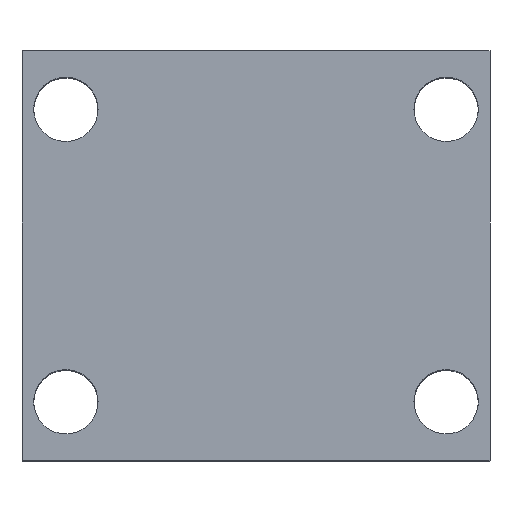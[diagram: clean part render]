
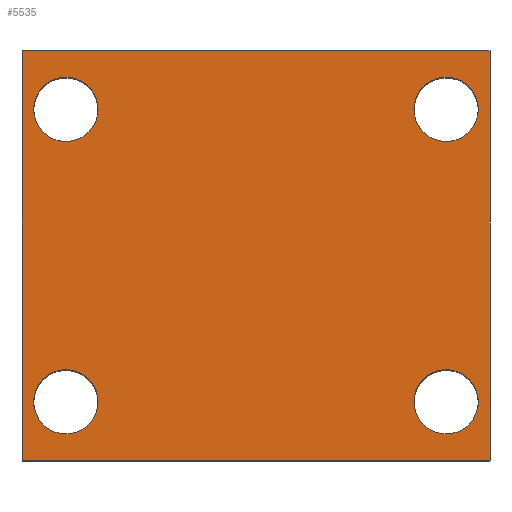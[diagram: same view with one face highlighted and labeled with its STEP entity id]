
A CAD part, top view. The second image highlights one B-rep face of the part: STEP entity #5535.
In plain terms, the highlighted planar face has unit normal (0, 0, 1).
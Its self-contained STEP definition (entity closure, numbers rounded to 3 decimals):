
#42 = ORIENTED_EDGE ( 'NONE', *, *, #14984, .F. ) ;
#81 = ORIENTED_EDGE ( 'NONE', *, *, #12268, .T. ) ;
#680 = VERTEX_POINT ( 'NONE', #2976 ) ;
#1049 = EDGE_CURVE ( 'NONE', #680, #11699, #5233, .T. ) ;
#1264 = DIRECTION ( 'NONE',  ( 0., 0., -1. ) ) ;
#1292 = LINE ( 'NONE', #4567, #7881 ) ;
#1431 = PLANE ( 'NONE',  #15276 ) ;
#1752 = VERTEX_POINT ( 'NONE', #15439 ) ;
#1864 = VECTOR ( 'NONE', #13618, 1000. ) ;
#1929 = VERTEX_POINT ( 'NONE', #6862 ) ;
#1977 = DIRECTION ( 'NONE',  ( 0., 0., -1. ) ) ;
#2233 = AXIS2_PLACEMENT_3D ( 'NONE', #9193, #1264, #10565 ) ;
#2290 = DIRECTION ( 'NONE',  ( 1., 0., 0. ) ) ;
#2409 = ORIENTED_EDGE ( 'NONE', *, *, #11989, .T. ) ;
#2499 = CARTESIAN_POINT ( 'NONE',  ( 76., 20., 90. ) ) ;
#2744 = DIRECTION ( 'NONE',  ( -1., 0., 0. ) ) ;
#2948 = CARTESIAN_POINT ( 'NONE',  ( 65., 20., 90. ) ) ;
#2955 = EDGE_CURVE ( 'NONE', #16971, #10944, #14326, .T. ) ;
#2976 = CARTESIAN_POINT ( 'NONE',  ( 54., 120., 90. ) ) ;
#3037 = AXIS2_PLACEMENT_3D ( 'NONE', #15864, #7674, #17254 ) ;
#3060 = EDGE_LOOP ( 'NONE', ( #2409, #42, #6910, #6739 ) ) ;
#3081 = CARTESIAN_POINT ( 'NONE',  ( 65., 120., 90. ) ) ;
#3160 = EDGE_CURVE ( 'NONE', #10944, #16971, #15414, .T. ) ;
#3420 = FACE_BOUND ( 'NONE', #13565, .T. ) ;
#3484 = CARTESIAN_POINT ( 'NONE',  ( 65., 20., 90. ) ) ;
#3856 = CARTESIAN_POINT ( 'NONE',  ( -80., 0., 90. ) ) ;
#3908 = ORIENTED_EDGE ( 'NONE', *, *, #16884, .T. ) ;
#3959 = CARTESIAN_POINT ( 'NONE',  ( -54., 20., 90. ) ) ;
#4195 = CARTESIAN_POINT ( 'NONE',  ( 80., 140., 90. ) ) ;
#4250 = DIRECTION ( 'NONE',  ( -1., 0., 0. ) ) ;
#4338 = LINE ( 'NONE', #10195, #16657 ) ;
#4376 = DIRECTION ( 'NONE',  ( -1., 0., 0. ) ) ;
#4567 = CARTESIAN_POINT ( 'NONE',  ( -80., 140., 90. ) ) ;
#4599 = AXIS2_PLACEMENT_3D ( 'NONE', #3081, #12425, #4376 ) ;
#4757 = VERTEX_POINT ( 'NONE', #13604 ) ;
#4785 = DIRECTION ( 'NONE',  ( -1., 0., 0. ) ) ;
#4902 = LINE ( 'NONE', #4195, #1864 ) ;
#5233 = CIRCLE ( 'NONE', #4599, 11. ) ;
#5297 = ORIENTED_EDGE ( 'NONE', *, *, #7253, .T. ) ;
#5352 = ORIENTED_EDGE ( 'NONE', *, *, #3160, .T. ) ;
#5534 = LINE ( 'NONE', #5549, #12291 ) ;
#5535 = ADVANCED_FACE ( 'NONE', ( #13288, #9688, #10117, #3420, #16964 ), #1431, .F. ) ;
#5549 = CARTESIAN_POINT ( 'NONE',  ( -80., 140., 90. ) ) ;
#5586 = CARTESIAN_POINT ( 'NONE',  ( -65., 120., 90. ) ) ;
#5800 = DIRECTION ( 'NONE',  ( 0., 0., -1. ) ) ;
#6608 = CARTESIAN_POINT ( 'NONE',  ( 54., 20., 90. ) ) ;
#6739 = ORIENTED_EDGE ( 'NONE', *, *, #13476, .T. ) ;
#6775 = EDGE_LOOP ( 'NONE', ( #11037, #3908 ) ) ;
#6862 = CARTESIAN_POINT ( 'NONE',  ( 80., 0., 90. ) ) ;
#6892 = DIRECTION ( 'NONE',  ( 0., -1., 0. ) ) ;
#6910 = ORIENTED_EDGE ( 'NONE', *, *, #12572, .F. ) ;
#6932 = DIRECTION ( 'NONE',  ( -1., 0., 0. ) ) ;
#7001 = EDGE_LOOP ( 'NONE', ( #10483, #5352 ) ) ;
#7247 = CIRCLE ( 'NONE', #12297, 11. ) ;
#7253 = EDGE_CURVE ( 'NONE', #4757, #12274, #9655, .T. ) ;
#7648 = ORIENTED_EDGE ( 'NONE', *, *, #9863, .T. ) ;
#7674 = DIRECTION ( 'NONE',  ( 0., 0., -1. ) ) ;
#7881 = VECTOR ( 'NONE', #12695, 1000. ) ;
#8003 = AXIS2_PLACEMENT_3D ( 'NONE', #13942, #5800, #15341 ) ;
#8567 = CARTESIAN_POINT ( 'NONE',  ( -54., 120., 90. ) ) ;
#9193 = CARTESIAN_POINT ( 'NONE',  ( -65., 120., 90. ) ) ;
#9352 = EDGE_LOOP ( 'NONE', ( #5297, #7648 ) ) ;
#9473 = VERTEX_POINT ( 'NONE', #3856 ) ;
#9600 = CARTESIAN_POINT ( 'NONE',  ( 76., 120., 90. ) ) ;
#9655 = CIRCLE ( 'NONE', #2233, 11. ) ;
#9688 = FACE_BOUND ( 'NONE', #6775, .T. ) ;
#9863 = EDGE_CURVE ( 'NONE', #12274, #4757, #15387, .T. ) ;
#9942 = CARTESIAN_POINT ( 'NONE',  ( 65., 120., 90. ) ) ;
#9952 = CIRCLE ( 'NONE', #3037, 11. ) ;
#10117 = FACE_BOUND ( 'NONE', #7001, .T. ) ;
#10195 = CARTESIAN_POINT ( 'NONE',  ( -80., 0., 90. ) ) ;
#10483 = ORIENTED_EDGE ( 'NONE', *, *, #2955, .T. ) ;
#10565 = DIRECTION ( 'NONE',  ( -1., 0., 0. ) ) ;
#10730 = DIRECTION ( 'NONE',  ( 0., 0., -1. ) ) ;
#10944 = VERTEX_POINT ( 'NONE', #2499 ) ;
#11005 = VERTEX_POINT ( 'NONE', #3959 ) ;
#11037 = ORIENTED_EDGE ( 'NONE', *, *, #12943, .T. ) ;
#11286 = DIRECTION ( 'NONE',  ( -1., 0., 0. ) ) ;
#11699 = VERTEX_POINT ( 'NONE', #9600 ) ;
#11789 = CARTESIAN_POINT ( 'NONE',  ( -76., 20., 90. ) ) ;
#11989 = EDGE_CURVE ( 'NONE', #9473, #1929, #4338, .T. ) ;
#12268 = EDGE_CURVE ( 'NONE', #11699, #680, #7247, .T. ) ;
#12274 = VERTEX_POINT ( 'NONE', #8567 ) ;
#12290 = DIRECTION ( 'NONE',  ( 0., 0., -1. ) ) ;
#12291 = VECTOR ( 'NONE', #6892, 1000. ) ;
#12297 = AXIS2_PLACEMENT_3D ( 'NONE', #9942, #1977, #11286 ) ;
#12425 = DIRECTION ( 'NONE',  ( 0., 0., -1. ) ) ;
#12530 = CIRCLE ( 'NONE', #8003, 11. ) ;
#12572 = EDGE_CURVE ( 'NONE', #15631, #1752, #1292, .T. ) ;
#12695 = DIRECTION ( 'NONE',  ( 1., 0., 0. ) ) ;
#12755 = VERTEX_POINT ( 'NONE', #11789 ) ;
#12860 = DIRECTION ( 'NONE',  ( 0., 0., -1. ) ) ;
#12943 = EDGE_CURVE ( 'NONE', #12755, #11005, #12530, .T. ) ;
#13288 = FACE_BOUND ( 'NONE', #9352, .T. ) ;
#13396 = CARTESIAN_POINT ( 'NONE',  ( -80., 140., 90. ) ) ;
#13476 = EDGE_CURVE ( 'NONE', #15631, #9473, #5534, .T. ) ;
#13565 = EDGE_LOOP ( 'NONE', ( #16440, #81 ) ) ;
#13604 = CARTESIAN_POINT ( 'NONE',  ( -76., 120., 90. ) ) ;
#13618 = DIRECTION ( 'NONE',  ( 0., -1., 0. ) ) ;
#13863 = AXIS2_PLACEMENT_3D ( 'NONE', #2948, #12290, #4250 ) ;
#13942 = CARTESIAN_POINT ( 'NONE',  ( -65., 20., 90. ) ) ;
#14326 = CIRCLE ( 'NONE', #15142, 11. ) ;
#14368 = AXIS2_PLACEMENT_3D ( 'NONE', #5586, #15110, #6932 ) ;
#14984 = EDGE_CURVE ( 'NONE', #1752, #1929, #4902, .T. ) ;
#15110 = DIRECTION ( 'NONE',  ( 0., 0., -1. ) ) ;
#15142 = AXIS2_PLACEMENT_3D ( 'NONE', #3484, #12860, #4785 ) ;
#15276 = AXIS2_PLACEMENT_3D ( 'NONE', #13396, #10730, #2744 ) ;
#15341 = DIRECTION ( 'NONE',  ( -1., 0., 0. ) ) ;
#15387 = CIRCLE ( 'NONE', #14368, 11. ) ;
#15414 = CIRCLE ( 'NONE', #13863, 11. ) ;
#15439 = CARTESIAN_POINT ( 'NONE',  ( 80., 140., 90. ) ) ;
#15631 = VERTEX_POINT ( 'NONE', #17121 ) ;
#15864 = CARTESIAN_POINT ( 'NONE',  ( -65., 20., 90. ) ) ;
#16440 = ORIENTED_EDGE ( 'NONE', *, *, #1049, .T. ) ;
#16657 = VECTOR ( 'NONE', #2290, 1000. ) ;
#16884 = EDGE_CURVE ( 'NONE', #11005, #12755, #9952, .T. ) ;
#16964 = FACE_OUTER_BOUND ( 'NONE', #3060, .T. ) ;
#16971 = VERTEX_POINT ( 'NONE', #6608 ) ;
#17121 = CARTESIAN_POINT ( 'NONE',  ( -80., 140., 90. ) ) ;
#17254 = DIRECTION ( 'NONE',  ( -1., 0., 0. ) ) ;
